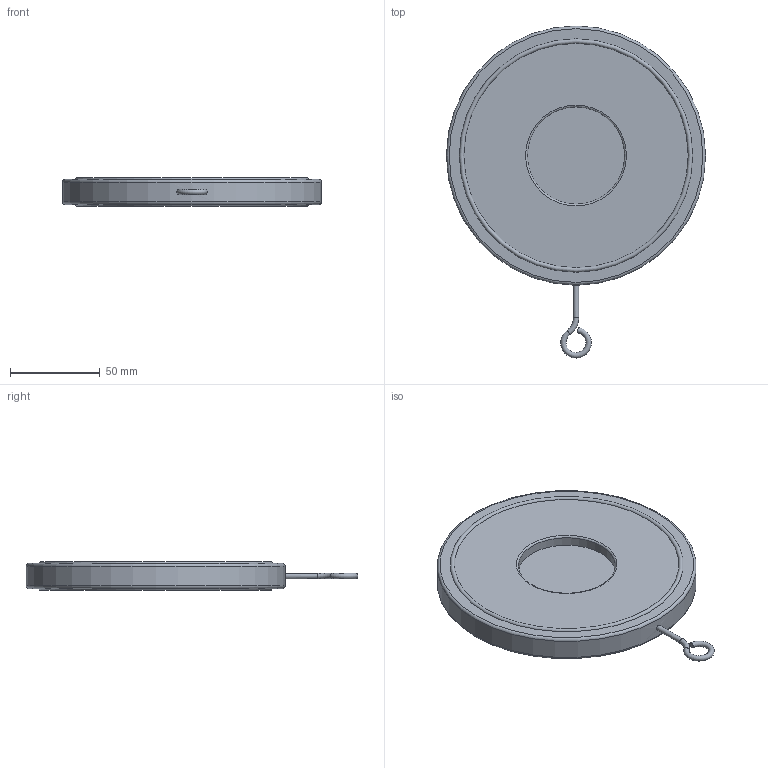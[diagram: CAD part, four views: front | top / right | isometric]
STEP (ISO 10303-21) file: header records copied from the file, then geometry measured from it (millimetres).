
FILE_DESCRIPTION( ( 'Unknown' ), '1' );
FILE_NAME( 'C:/Documents and Settings/Klaus/My Documents/Rootsi BPS 3D, Klaus/BPS 6505 swing check valve/STEP/BPS6505080 swing check valve DN80.stp', 'Unknown', ( 'Unknown' ), ( 'Unknown' ), 'PSStep 10.1', 'Unknown', ' ' );
FILE_SCHEMA( ( 'AUTOMOTIVE_DESIGN { 1 0 10303 214 1 1 1 1 }' ) );
Length unit declared in the file: millimetre
Products named in the file (1): 1
Bounding box: 144 x 184.5 x 16 mm (x, y, z)
Volume: 209995.3 mm3; surface area: 44998.2 mm2
Topology: 1 solids, 1 shells, 213 faces, 508 edges, 332 vertices
Faces by surface type: plane 131, extrusion 57, cylinder 13, torus 11, cone 1
Full cylindrical faces by diameter (mm): 3 x1, 10 x2, 54 x1, 144 x1
Entity records: 9639 total; most frequent: CARTESIAN_POINT 3546, ORIENTED_EDGE 958, DIRECTION 649, EDGE_CURVE 479, VERTEX_POINT 327, B_SPLINE_CURVE_WITH_KNOTS 308, EDGE_LOOP 276, FACE_OUTER_BOUND 237
